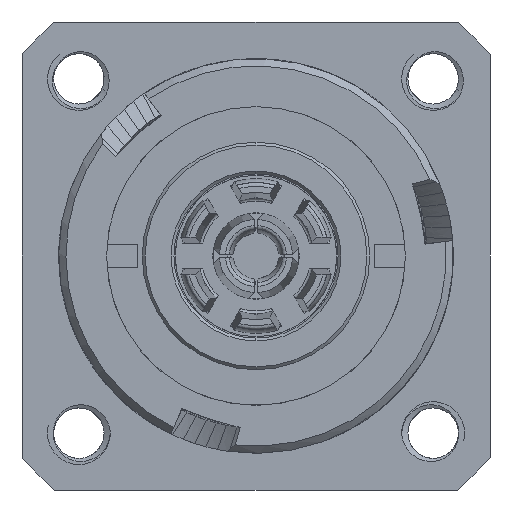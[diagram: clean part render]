
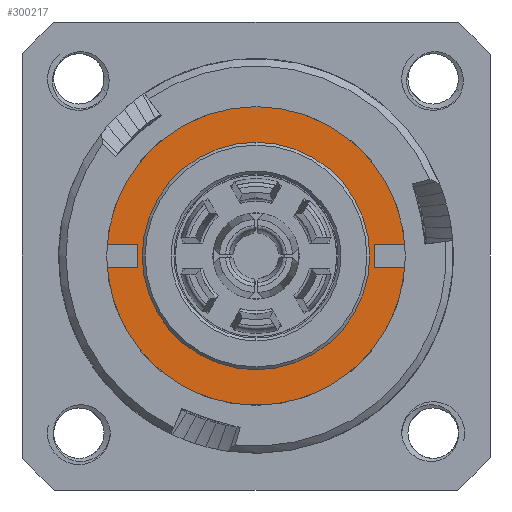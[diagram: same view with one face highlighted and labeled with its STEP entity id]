
A CAD part, left-side view. The second image highlights one B-rep face of the part: STEP entity #300217.
In plain terms, the highlighted planar face has unit normal (-1, 0, 0).
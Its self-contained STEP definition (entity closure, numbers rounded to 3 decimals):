
#85485=CARTESIAN_POINT('',(14.,0.,0.));
#85486=DIRECTION('',(1.,0.,0.));
#85487=DIRECTION('',(0.,-0.997,0.08));
#85488=AXIS2_PLACEMENT_3D('',#85485,#85486,#85487);
#85490=CARTESIAN_POINT('',(14.,0.,0.));
#85491=DIRECTION('',(-1.,0.,0.));
#85492=DIRECTION('',(0.,-1.,0.));
#85493=AXIS2_PLACEMENT_3D('',#85490,#85491,#85492);
#85495=CARTESIAN_POINT('',(14.,0.,0.));
#85496=DIRECTION('',(1.,0.,0.));
#85497=DIRECTION('',(0.,-1.,0.));
#85498=AXIS2_PLACEMENT_3D('',#85495,#85496,#85497);
#85516=CARTESIAN_POINT('',(14.,0.,0.));
#85517=DIRECTION('',(-1.,0.,0.));
#85518=DIRECTION('',(0.,-0.997,0.08));
#85519=AXIS2_PLACEMENT_3D('',#85516,#85517,#85518);
#92155=CARTESIAN_POINT('',(14.,-7.9,0.));
#92156=CARTESIAN_POINT('',(14.,7.9,0.));
#92157=VERTEX_POINT('',#92155);
#92158=VERTEX_POINT('',#92156);
#92680=CARTESIAN_POINT('',(14.,10.342,0.825));
#92681=VERTEX_POINT('',#92680);
#92686=CARTESIAN_POINT('',(14.,-10.342,0.825));
#92687=VERTEX_POINT('',#92686);
#300201=CARTESIAN_POINT('',(14.,0.,0.));
#300202=DIRECTION('',(-1.,0.,0.));
#300203=DIRECTION('',(0.,1.,0.));
#300204=AXIS2_PLACEMENT_3D('',#300201,#300202,#300203);
#300205=PLANE('309',#300204);
#300207=ORIENTED_EDGE('10245',*,*,#300206,.F.);
#300208=ORIENTED_EDGE('10254',*,*,#300168,.T.);
#300209=EDGE_LOOP('309',(#300207,#300208));
#300210=FACE_OUTER_BOUND('309',#300209,.F.);
#300212=ORIENTED_EDGE('9670',*,*,#300211,.T.);
#300214=ORIENTED_EDGE('9669',*,*,#300213,.F.);
#300215=EDGE_LOOP('309',(#300212,#300214));
#300216=FACE_BOUND('309',#300215,.F.);
#85489=CIRCLE('10254',#85488,10.375);
#85494=CIRCLE('9670',#85493,7.9);
#85499=CIRCLE('9669',#85498,7.9);
#85520=CIRCLE('10245',#85519,10.375);
#300168=EDGE_CURVE('10254',#92687,#92681,#85489,.T.);
#300206=EDGE_CURVE('10245',#92687,#92681,#85520,.T.);
#300211=EDGE_CURVE('9670',#92157,#92158,#85494,.T.);
#300213=EDGE_CURVE('9669',#92157,#92158,#85499,.T.);
#300217=ADVANCED_FACE('309',(#300210,#300216),#300205,.T.);
